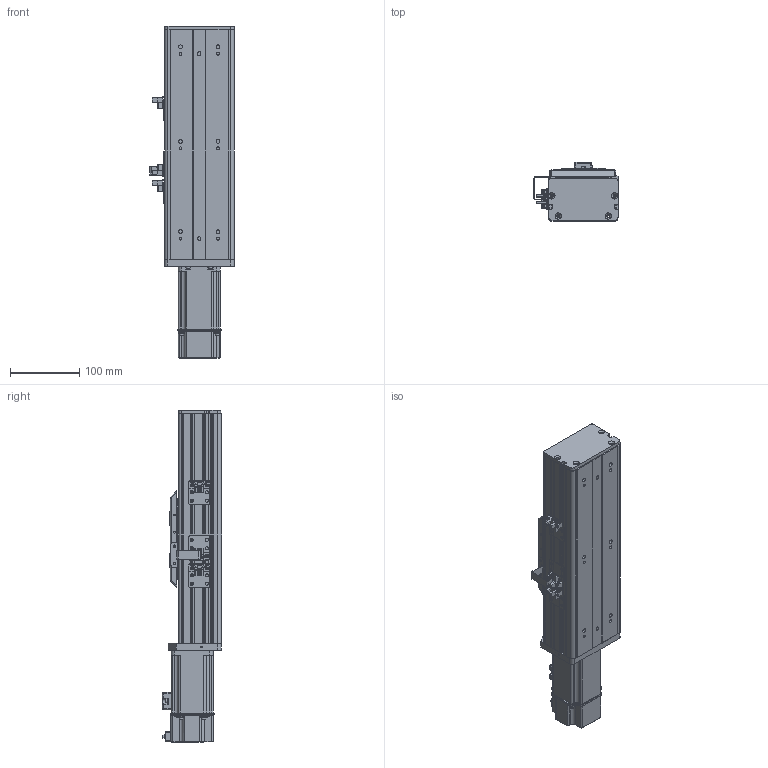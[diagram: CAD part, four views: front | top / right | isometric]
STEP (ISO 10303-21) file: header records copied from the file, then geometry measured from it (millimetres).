
FILE_DESCRIPTION (( 'STEP AP203' ), '1' );
FILE_NAME ('BOSW100-100-1610-1P-CM-M400W-O-S3（方程式2016）.step', '2020-10-10T06:29:19', ( '' ), ( '' ), 'SwSTEP 2.0', 'SolidWorks 2016', '' );
FILE_SCHEMA (( 'CONFIG_CONTROL_DESIGN' ));
Length unit declared in the file: millimetre
Products named in the file (13): 放大器内置U型微型光电传感器PM-L65; BOSW-100-1P-CM-100諦誧芞; BOSW&TW-100-1P-賑雄釱欶; S400W(SMA-L040); BOSW-100-CM-宽轨-三菱M200W&400W马达板(新结构); BOSW-100-1P-CM-宽轨-钢带-100客户图纸; BOSW100-100-1610-1P-CM-M400W-O-S3（方程式2016）; 新结构AIMSW-100-1P-宽&高轨共用-滑动座上组件; BOSW-100-綴裔啣; 俋境嫖覜嘐隅啣; BOSW-100-1P-CM-宽轨-侧板-100客户图纸; BOSW&TW-100-詩湍揤沭(陔賦凳); BOSW&TW-100-俋离覜茼え
Assembly tree (18 placements, depth 2):
  BOSW100-100-1610-1P-CM-M400W-O-S3（方程式2016）
    BOSW-100-1P-CM-100諦誧芞
    BOSW-100-綴裔啣
    新结构AIMSW-100-1P-宽&高轨共用-滑动座上组件
    S400W(SMA-L040)
    BOSW&TW-100-詩湍揤沭(陔賦凳)  x2
    BOSW&TW-100-1P-賑雄釱欶
    BOSW&TW-100-俋离覜茼え
    俋境嫖覜嘐隅啣  x3
    放大器内置U型微型光电传感器PM-L65  x3
    BOSW-100-CM-宽轨-三菱M200W&400W马达板(新结构)
    BOSW-100-1P-CM-宽轨-侧板-100客户图纸  x2
    BOSW-100-1P-CM-宽轨-钢带-100客户图纸
Bounding box: 120.9 x 85.5 x 477.8 mm (x, y, z)
Volume: 988544.4 mm3; surface area: 461124.3 mm2
Topology: 18 solids, 18 shells, 2453 faces, 6450 edges, 4109 vertices
Faces by surface type: plane 1216, cylinder 753, bspline 271, cone 165, torus 36, sphere 12
Entity records: 66536 total; most frequent: CARTESIAN_POINT 20192, ORIENTED_EDGE 9440, DIRECTION 9134, EDGE_CURVE 4720, AXIS2_PLACEMENT_3D 3232, VERTEX_POINT 3011, VECTOR 2670, LINE 2670
